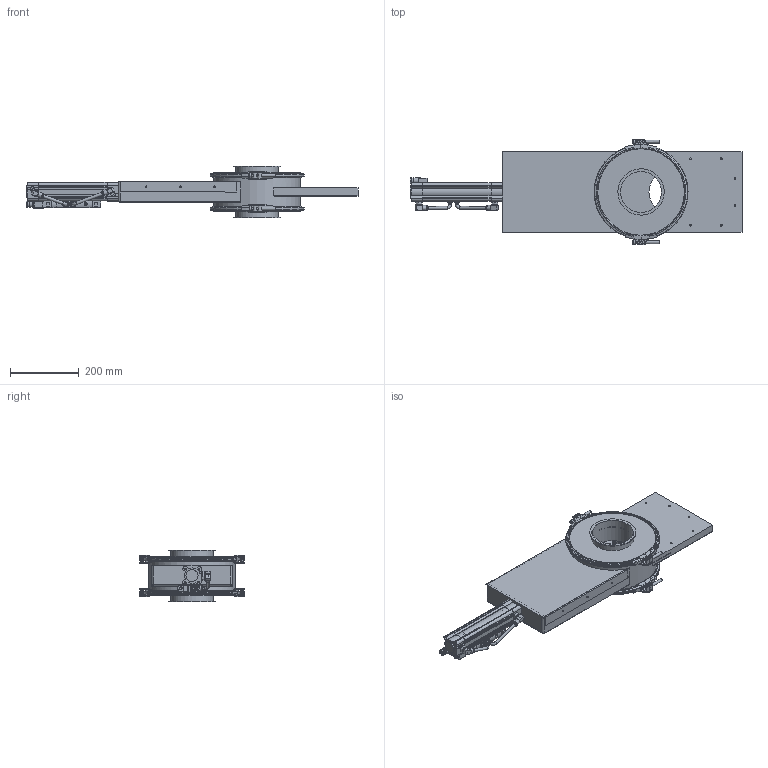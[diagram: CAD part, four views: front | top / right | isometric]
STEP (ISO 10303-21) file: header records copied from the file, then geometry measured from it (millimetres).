
FILE_DESCRIPTION((''),'2;1');
FILE_NAME('U:\Wolfgang\Marcel-3D\fertig\Kapitel 9\1221093.stp','2011-10-11T12:56:28',('iwienholt'),(''),'Autodesk Inventor 2010','Autodesk Inventor 2010','');
FILE_SCHEMA(('AUTOMOTIVE_DESIGN { 1 0 10303 214 1 1 1 1 }'));
Length unit declared in the file: millimetre
Products named in the file (24): 1221093; Einheit DN120; 2522055; 2522055-1; Verschluss b=274; Verschlussrolle; VerschlussrolleGewinde; ISO 4762 M8 x 70; 2522055-Dichtmasse; P.Schibereinheit DN120; Zylinder 40-160; 532743_DNCB_40_160_PPV_A_6_01; 532743_DNCB_40_160_PPV_A_6_02; 537600_VUVB_S_B42_ZD_Q8_3AC1_6_0; 537600_VUVB_S_B42_ZD_Q8_3AC1_6_01; 537600_VUVB_S_B42_ZD_Q8_3AC1_6_02; 537600_VUVB_S_B42_ZD_Q8_3AC1_6_03; 4527_MSFG_24_42_50_60_6_0; 4527_MSFG_24_42_50_60_6_01; 4527_MSFG_24_42_50_60_6_02; 153414_QSRL_1_4_8_6_0; schlauch; 13570_CRSG_M12x125_6_0; P.Schieber DN120
Assembly tree (33 placements, depth 4):
  1221093
    Einheit DN120
    2522055  x2
      2522055-1
      Verschluss b=274
      Verschlussrolle
      VerschlussrolleGewinde
      ISO 4762 M8 x 70
      2522055-Dichtmasse
    P.Schibereinheit DN120
      Zylinder 40-160
        532743_DNCB_40_160_PPV_A_6_01
        532743_DNCB_40_160_PPV_A_6_02
      537600_VUVB_S_B42_ZD_Q8_3AC1_6_0
        537600_VUVB_S_B42_ZD_Q8_3AC1_6_01
        537600_VUVB_S_B42_ZD_Q8_3AC1_6_02
        537600_VUVB_S_B42_ZD_Q8_3AC1_6_03
      4527_MSFG_24_42_50_60_6_0
        4527_MSFG_24_42_50_60_6_01
        4527_MSFG_24_42_50_60_6_02
      153414_QSRL_1_4_8_6_0  x2
      schlauch  x2
      13570_CRSG_M12x125_6_0
      P.Schieber DN120
Bounding box: 967.19 x 307.99 x 150 mm (x, y, z)
Volume: 3333920.2 mm3; surface area: 1543394 mm2
Topology: 40 solids, 40 shells, 1794 faces, 4594 edges, 2987 vertices
Faces by surface type: plane 751, cylinder 573, cone 228, bspline 200, torus 42
Full cylindrical faces by diameter (mm): 1 x3, 2.459 x1, 3 x2, 3.5 x1, 4 x1, 4.5 x1, 4.917 x8, 5 x21, 5.471 x2, 5.5 x1, 6 x21, 7.188 x1, 8 x29, 8.05 x1, 9 x1, 9.6 x2, 9.653 x1, 10.15 x2, 11.2 x2, 11.445 x2, 12 x12, 13 x4, 13.05 x2, 13.157 x2, 14 x6, 14.4 x4, 14.5 x2, 14.7 x6, 15.1 x2, 15.2 x1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
Entity records: 32966 total; most frequent: CARTESIAN_POINT 7637, DIRECTION 5276, ORIENTED_EDGE 4744, EDGE_CURVE 2372, AXIS2_PLACEMENT_3D 1978, VERTEX_POINT 1645, EDGE_LOOP 1421, VECTOR 1320
